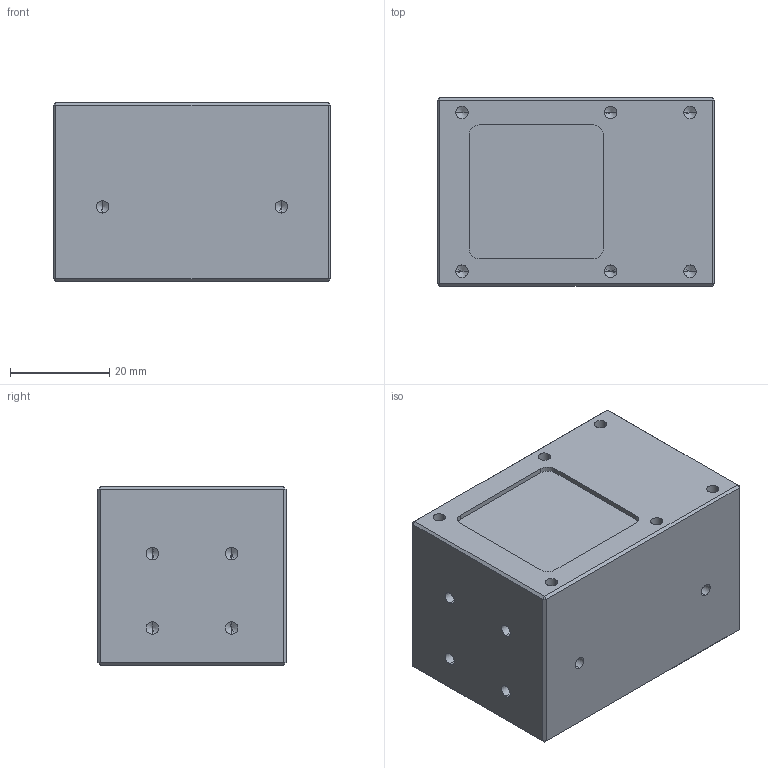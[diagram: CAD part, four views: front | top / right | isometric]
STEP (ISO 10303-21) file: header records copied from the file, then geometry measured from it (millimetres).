
FILE_DESCRIPTION (( 'STEP AP214' ), '1' );
FILE_NAME ('COL-30-安装尺寸图（简易3D）.STEP', '2017-04-17T05:56:37', ( '微软用户' ), ( '微软中国' ), 'SwSTEP 2.0', 'SolidWorks 2014', '' );
FILE_SCHEMA (( 'AUTOMOTIVE_DESIGN' ));
Length unit declared in the file: millimetre
Products named in the file (1): COL-30-安装尺寸图（简易3D）
Bounding box: 56 x 38 x 36 mm (x, y, z)
Volume: 73613.3 mm3; surface area: 11839.6 mm2
Topology: 1 solids, 1 shells, 102 faces, 239 edges, 128 vertices
Faces by surface type: plane 40, cylinder 34, cone 28
Entity records: 3001 total; most frequent: DIRECTION 485, CARTESIAN_POINT 442, ORIENTED_EDGE 422, EDGE_CURVE 211, AXIS2_PLACEMENT_3D 171, VECTOR 143, LINE 143, VERTEX_POINT 128
